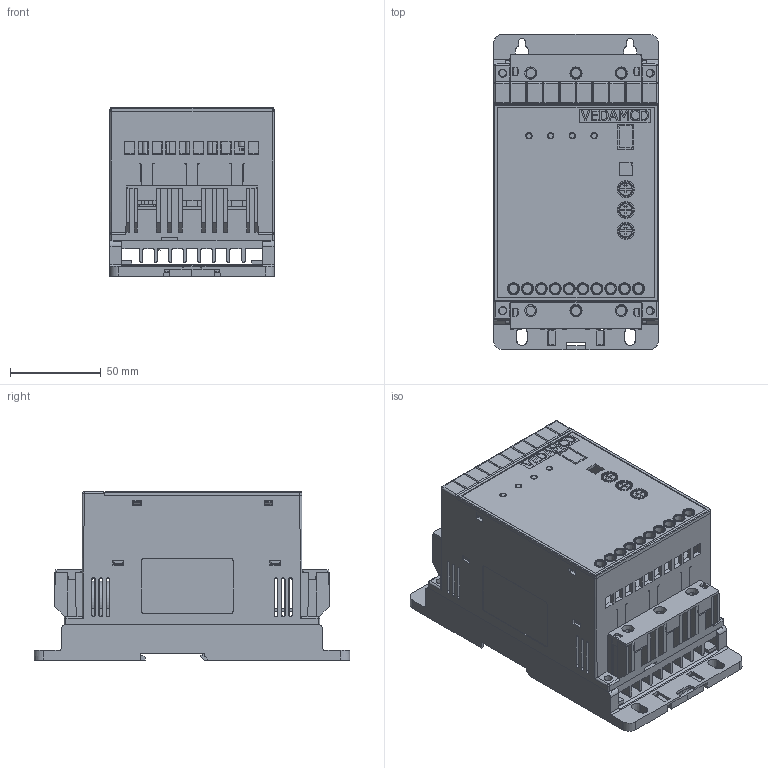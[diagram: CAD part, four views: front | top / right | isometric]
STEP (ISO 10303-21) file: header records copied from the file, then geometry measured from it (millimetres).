
FILE_DESCRIPTION(/* description */ (''),/* implementation_level */ '2;1');
FILE_NAME(/* name */ 'O:\БЭМ\Personal\Абрамов\262-20-1 ТП Драчево\3D Inventor\MCD1\Адаптированные\C1.stp',/* time_stamp */ '2023-10-04T07:23:22+03:00',/* author */ ('a.abramov'),/* organization */ (''),/* preprocessor_version */ 'ST-DEVELOPER v18.1',/* originating_system */ 'Autodesk Inventor 2022',/* authorisation */ '');
FILE_SCHEMA (('AUTOMOTIVE_DESIGN { 1 0 10303 214 3 1 1 }'));
Products named in the file (1): C1
Bounding box: 90.94 x 174.2 x 93.1 mm (x, y, z)
Volume: 299799.1 mm3; surface area: 262391 mm2
Topology: 1 solids, 2 shells, 2772 faces, 7915 edges, 5187 vertices
Faces by surface type: plane 2330, cylinder 211, cone 182, bspline 43, sphere 6
Full cylindrical faces by diameter (mm): 0.5 x1, 1.5 x2, 2.5 x1, 2.839 x4, 3 x9, 4 x11, 4.2 x1, 5.1 x2, 11 x2
Entity records: 93746 total; most frequent: CARTESIAN_POINT 17858, ORIENTED_EDGE 15820, DIRECTION 14031, EDGE_CURVE 7910, LINE 6803, VECTOR 6803, VERTEX_POINT 5189, AXIS2_PLACEMENT_3D 3614
